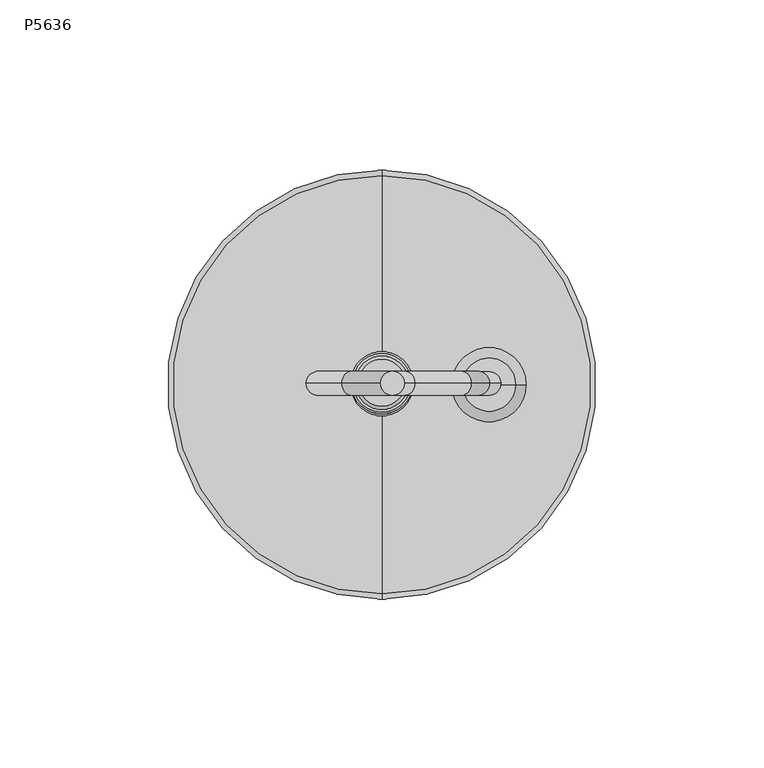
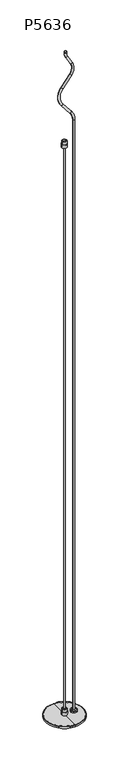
"""IFC4 building model written with IfcOpenShell, lengths in millimetres: light fixture geometry, Impact_Arch_Ltg-waf.r.3 : P5636."""

import ifcopenshell
import ifcopenshell.guid

model = None  # the IFC model being written
_history = None  # IfcOwnerHistory: only IFC2X3 demands one
_inside = {}  # id of a spatial element -> (the spatial element, [elements in it])
_under = {}  # id of a project, library or spatial element -> (it, [spatial elements below it])
_declared = {}  # id of a project -> (the project, [libraries it declares])
_typed = {}  # id of a type object -> (the type object, [elements of that type])
_made_of = {}  # id of a material, layer set ... -> (it, [elements and type objects made of it])


def new_model(schema):
    """Start an empty IFC model of exactly this schema.

    Asked for "IFC4X3", IfcOpenShell would pick the latest addendum, in which some entities
    have other attributes; the version numbers below select the first issue.
    IFC2X3 requires an IfcOwnerHistory on every rooted entity: one is made here for all.
    """
    global model, _history
    if schema == "IFC4X3":
        model = ifcopenshell.file(schema_version=(4, 3, 0, 0))
    else:
        model = ifcopenshell.file(schema=schema)
    _inside.clear()
    _under.clear()
    _declared.clear()
    _typed.clear()
    _made_of.clear()
    _history = None
    if model.schema == "IFC2X3":
        org = make("IfcOrganization", Name="unknown")
        user = make(
            "IfcPersonAndOrganization",
            ThePerson=make("IfcPerson", FamilyName="unknown"),
            TheOrganization=org,
        )
        app = make(
            "IfcApplication",
            ApplicationDeveloper=org,
            Version="unknown",
            ApplicationFullName="unknown",
            ApplicationIdentifier="unknown",
        )
        _history = make(
            "IfcOwnerHistory",
            OwningUser=user,
            OwningApplication=app,
            ChangeAction="ADDED",
            CreationDate=0,
        )
    return model


def make(cls, **values):
    """One entity of the class cls with the attributes given. An attribute that is None is left unset."""
    return model.create_entity(
        cls, **{name: value for name, value in values.items() if value is not None}
    )


def rooted(cls, **values):
    """An entity with a GlobalId (a new one), such as an element, a storey or a relation."""
    return make(cls, GlobalId=ifcopenshell.guid.new(), OwnerHistory=_history, **values)


def si_unit(unit_type, name, prefix=None):
    """IfcSIUnit, for example si_unit("LENGTHUNIT", "METRE", prefix="MILLI")."""
    return make("IfcSIUnit", UnitType=unit_type, Prefix=prefix, Name=name)


def assignment(units):
    """IfcUnitAssignment: the units of a project."""
    return None if units is None else make("IfcUnitAssignment", Units=units)


def point(xyz):
    """IfcCartesianPoint."""
    return None if xyz is None else make("IfcCartesianPoint", Coordinates=xyz)


def direction(xyz):
    """IfcDirection."""
    return None if xyz is None else make("IfcDirection", DirectionRatios=xyz)


def frame(location, z_axis=None, x_axis=None):
    """IfcAxis2Placement3D, a coordinate frame: its origin and axes. An axis left out is left unset."""
    return make(
        "IfcAxis2Placement3D",
        Location=point(location),
        Axis=direction(z_axis),
        RefDirection=direction(x_axis),
    )


def origin():
    """The frame at (0, 0, 0) with its axes left unset."""
    return frame((0.0, 0.0, 0.0))


def place(relative_to, where):
    """IfcLocalPlacement: puts the frame where relative to a parent placement (None: the world)."""
    return make(
        "IfcLocalPlacement", PlacementRelTo=relative_to, RelativePlacement=where
    )


def context(
    kind, dimensions, precision=None, world=None, true_north=None, identifier=None
):
    """IfcGeometricRepresentationContext, for example the 3D "Model" context."""
    return make(
        "IfcGeometricRepresentationContext",
        ContextIdentifier=identifier,
        ContextType=kind,
        CoordinateSpaceDimension=dimensions,
        Precision=precision,
        WorldCoordinateSystem=world,
        TrueNorth=true_north,
    )


def project(units=None, contexts=None):
    """IfcProject with its units and contexts."""
    return rooted(
        "IfcProject",
        Name="project",
        RepresentationContexts=contexts,
        UnitsInContext=assignment(units),
    )


def spatial(cls, under=None, at=None, **own):
    """A site, building, storey or space (cls), placed at a placement, below another one or the project."""
    s = rooted(cls, ObjectPlacement=at, **own)
    if under is not None:
        _under.setdefault(under.id(), (under, []))[1].append(s)
    return s


def circle_curve(where, radius):
    """IfcCircle in the frame where."""
    return make("IfcCircle", Position=where, Radius=radius)


def ellipse_curve(where, semi_axis1, semi_axis2):
    """IfcEllipse in the frame where."""
    return make(
        "IfcEllipse", Position=where, SemiAxis1=semi_axis1, SemiAxis2=semi_axis2
    )


def trimmed(basis, trim1, trim2, sense, master):
    """IfcTrimmedCurve: the piece of a basis curve between two trims."""
    return make(
        "IfcTrimmedCurve",
        BasisCurve=basis,
        Trim1=trim1,
        Trim2=trim2,
        SenseAgreement=sense,
        MasterRepresentation=master,
    )


def shape(context_of_items, identifier, shape_type, items):
    """IfcShapeRepresentation: the items that make up one representation, for example the "Body"."""
    return make(
        "IfcShapeRepresentation",
        ContextOfItems=context_of_items,
        RepresentationIdentifier=identifier,
        RepresentationType=shape_type,
        Items=items,
    )


def source(mapping_origin, context_of_items, identifier, shape_type, items):
    """IfcRepresentationMap: a shape defined once, which mapped items show again and again."""
    return make(
        "IfcRepresentationMap",
        MappingOrigin=mapping_origin,
        MappedRepresentation=shape(context_of_items, identifier, shape_type, items),
    )


def transform(
    local_origin,
    x_axis=None,
    y_axis=None,
    z_axis=None,
    scale=None,
    scale2=None,
    scale3=None,
    uniform=True,
):
    """IfcCartesianTransformationOperator3D, or its non-uniform kind. x_axis, y_axis, z_axis: its Axis1, 2, 3."""
    if uniform:
        return make(
            "IfcCartesianTransformationOperator3D",
            Axis1=direction(x_axis),
            Axis2=direction(y_axis),
            LocalOrigin=point(local_origin),
            Scale=scale,
            Axis3=direction(z_axis),
        )
    return make(
        "IfcCartesianTransformationOperator3DnonUniform",
        Axis1=direction(x_axis),
        Axis2=direction(y_axis),
        LocalOrigin=point(local_origin),
        Scale=scale,
        Axis3=direction(z_axis),
        Scale2=scale2,
        Scale3=scale3,
    )


def mapped(mapping_source, mapping_target):
    """IfcMappedItem: shows the shape of a source again, moved by a transform."""
    return make(
        "IfcMappedItem", MappingSource=mapping_source, MappingTarget=mapping_target
    )


def made_of(thing, what):
    """Note that an element or type object is made of a material, layer set ...; save() writes the relation."""
    if what is not None:
        _made_of.setdefault(what.id(), (what, []))[1].append(thing)
    return thing


def element(
    cls,
    number,
    at=None,
    inside=None,
    cuts=None,
    type_object=None,
    material=None,
    context=None,
    identifier="Body",
    shape_type=None,
    held_by="IfcProductDefinitionShape",
    body=None,
    shapes=None,
    **own,
):
    """One element of the class cls, such as IfcWall. Its Tag is "e" and its number.

    at: its placement. inside: the storey or other place that contains it. cuts: it is an
    opening in that element (IfcRelVoidsElement). A single representation is given by context,
    identifier, shape_type and body (its items); several are given by shapes. held_by: the class
    of the entity that holds the representations. save() writes the other relations.
    """
    e = rooted(cls, Tag="e%d" % number, ObjectPlacement=at, **own)
    if body is not None:
        shapes = [shape(context, identifier, shape_type, body)]
    if shapes is not None:
        e.Representation = make(held_by, Representations=shapes)
    if inside is not None:
        _inside.setdefault(inside.id(), (inside, []))[1].append(e)
    if cuts is not None:
        rooted(
            "IfcRelVoidsElement", RelatingBuildingElement=cuts, RelatedOpeningElement=e
        )
    if type_object is not None:
        _typed.setdefault(type_object.id(), (type_object, []))[1].append(e)
    return made_of(e, material)


def aggregate(whole, parts):
    """IfcRelAggregates: a whole, such as a stair, and the parts it consists of."""
    return rooted("IfcRelAggregates", RelatingObject=whole, RelatedObjects=parts)


def save(model, path):
    """Write the relations noted so far, then the file.

    IfcRelAggregates (storeys below a building ...), IfcRelContainedInSpatialStructure (elements
    in a storey), IfcRelDefinesByType, IfcRelAssociatesMaterial and IfcRelDeclares: one each for
    every whole, place, type object, material and project.
    """
    for whole, parts in _under.values():
        aggregate(whole, parts)
    for where, things in _inside.values():
        rooted(
            "IfcRelContainedInSpatialStructure",
            RelatedElements=things,
            RelatingStructure=where,
        )
    for kind, things in _typed.values():
        rooted("IfcRelDefinesByType", RelatedObjects=things, RelatingType=kind)
    for what, things in _made_of.values():
        rooted("IfcRelAssociatesMaterial", RelatedObjects=things, RelatingMaterial=what)
    for by, libraries in _declared.values():
        rooted("IfcRelDeclares", RelatingContext=by, RelatedDefinitions=libraries)
    model.write(path)


def plane_surface(at):
    """IfcPlane: the flat surface through the origin of the frame at, square to its z axis."""
    return make("IfcPlane", Position=at)


def cylinder_surface(at, radius):
    """IfcCylindricalSurface: all points at the distance radius from the z axis of the frame at."""
    return make("IfcCylindricalSurface", Position=at, Radius=radius)


def revolved_surface(curve, axis_point, axis_direction):
    """IfcSurfaceOfRevolution: the curve turned about the line through axis_point along axis_direction."""
    return make(
        "IfcSurfaceOfRevolution",
        SweptCurve=make("IfcArbitraryOpenProfileDef", ProfileType="CURVE", Curve=curve),
        AxisPosition=make("IfcAxis1Placement", Location=point(axis_point), Axis=direction(axis_direction)),
    )


def advanced_brep(points, edges, surfaces, faces):
    """IfcAdvancedBrep: a solid bounded by faces that lie on surfaces and meet in shared edges.

    An edge is (start, end): straight between two places in points (the first is 0);
    or (start, end, curve); or (start, end, curve, False) where it runs against its curve.
    A face is (place in surfaces, loops), or (place, loops, False) where it looks against
    its surface's normal. A loop lists edges by number (the first is 1), with a minus sign
    where the edge is run from its end to its start. The first loop is the outer one.
    """
    corners = [point(p) for p in points]
    vertices = [make("IfcVertexPoint", VertexGeometry=c) for c in corners]
    made = []
    for start, end, *more in edges:
        made.append(
            make(
                "IfcEdgeCurve",
                EdgeStart=vertices[start],
                EdgeEnd=vertices[end],
                EdgeGeometry=more[0] if more else make("IfcPolyline", Points=[corners[start], corners[end]]),
                SameSense=more[1] if len(more) > 1 else True,
            )
        )
    hull = []
    for where, loops, *sense in faces:
        bounds = []
        for j, loop in enumerate(loops):
            ring = [make("IfcOrientedEdge", EdgeElement=made[abs(k) - 1], Orientation=k > 0) for k in loop]
            bounds.append(
                make(
                    "IfcFaceOuterBound" if j == 0 else "IfcFaceBound",
                    Bound=make("IfcEdgeLoop", EdgeList=ring),
                    Orientation=True,
                )
            )
        hull.append(make("IfcAdvancedFace", Bounds=bounds, FaceSurface=surfaces[where], SameSense=sense[0] if sense else True))
    return make("IfcAdvancedBrep", Outer=make("IfcClosedShell", CfsFaces=hull))


def p5636_472eec4d(model_context):
    return source(origin(), model_context, "Body", "AdvancedBrep", [
        advanced_brep(
        [(-9.2456, 0.2280822, 2039.366), (9.2456, 0.2280822, 2039.366), (0.0, 0.2280822, 2039.366), (-9.2456, 0.2280822, 2049.849117), (9.2456, 0.2280822, 2049.849117), (-8.730517, 0.2280822, 2050.3642), (8.730517, 0.2280822, 2050.3642), (-7.9030748, 0.2280822, 2050.3642), (7.9030748, 0.2280822, 2050.3642), (-7.9030748, 0.2280822, 2059.4924806), (7.9030748, 0.2280822, 2059.4924806), (-6.9575823, 0.2280822, 2060.4379732), (6.9575823, 0.2280822, 2060.4379732), (0.0, 0.2280822, 2060.4379732)],
        [
            (0, 1, circle_curve(frame((0.0, 0.2280822, 2039.366), z_axis=(0.0, 0.0, -1.0), x_axis=(1.0, 0.0, 0.0)), 9.2456)),
            (1, 2),
            (2, 0),
            (1, 0, circle_curve(frame((0.0, 0.2280822, 2039.366), z_axis=(0.0, 0.0, -1.0), x_axis=(1.0, 0.0, 0.0)), 9.2456)),
            (3, 4, circle_curve(frame((0.0, 0.2280822, 2049.849117), z_axis=(0.0, 0.0, -1.0), x_axis=(1.0, 0.0, 0.0)), 9.2456)),
            (4, 1),
            (0, 3),
            (4, 3, circle_curve(frame((0.0, 0.2280822, 2049.849117), z_axis=(0.0, 0.0, -1.0), x_axis=(1.0, 0.0, 0.0)), 9.2456)),
            (5, 6, circle_curve(frame((0.0, 0.2280822, 2050.3642), z_axis=(0.0, 0.0, -1.0), x_axis=(1.0, 0.0, 0.0)), 8.730517)),
            (6, 4, circle_curve(frame((8.730517, 0.2280822, 2049.849117), z_axis=(0.0, 1.0, 0.0), x_axis=(1.0, 0.0, 0.0)), 0.515083)),
            (3, 5, circle_curve(frame((-8.730517, 0.2280822, 2049.849117), z_axis=(0.0, 1.0, 0.0), x_axis=(-1.0, 0.0, 0.0)), 0.515083)),
            (6, 5, circle_curve(frame((0.0, 0.2280822, 2050.3642), z_axis=(0.0, 0.0, -1.0), x_axis=(1.0, 0.0, 0.0)), 8.730517)),
            (7, 8, circle_curve(frame((0.0, 0.2280822, 2050.3642), z_axis=(0.0, 0.0, -1.0), x_axis=(1.0, 0.0, 0.0)), 7.9030748)),
            (8, 6),
            (5, 7),
            (8, 7, circle_curve(frame((0.0, 0.2280822, 2050.3642), z_axis=(0.0, 0.0, -1.0), x_axis=(1.0, 0.0, 0.0)), 7.9030748)),
            (9, 10, circle_curve(frame((0.0, 0.2280822, 2059.4924806), z_axis=(0.0, 0.0, -1.0), x_axis=(1.0, 0.0, 0.0)), 7.9030748)),
            (10, 8),
            (7, 9),
            (10, 9, circle_curve(frame((0.0, 0.2280822, 2059.4924806), z_axis=(0.0, 0.0, -1.0), x_axis=(1.0, 0.0, 0.0)), 7.9030748)),
            (11, 12, circle_curve(frame((0.0, 0.2280822, 2060.4379732), z_axis=(0.0, 0.0, -1.0), x_axis=(1.0, 0.0, 0.0)), 6.9575823)),
            (12, 10, circle_curve(frame((6.9575823, 0.2280822, 2059.4924806), z_axis=(0.0, 1.0, 0.0), x_axis=(1.0, 0.0, 0.0)), 0.9454926)),
            (9, 11, circle_curve(frame((-6.9575823, 0.2280822, 2059.4924806), z_axis=(0.0, 1.0, 0.0), x_axis=(-1.0, 0.0, 0.0)), 0.9454926)),
            (12, 11, circle_curve(frame((0.0, 0.2280822, 2060.4379732), z_axis=(0.0, 0.0, -1.0), x_axis=(1.0, 0.0, 0.0)), 6.9575823)),
            (13, 12),
            (11, 13),
        ],
        [
            plane_surface(frame((0.0, 0.2280822, 2039.366), z_axis=(0.0, 0.0, -1.0), x_axis=(1.0, 0.0, 0.0))),
            cylinder_surface(frame((0.0, 0.2280822, 2012.95), z_axis=(0.0, 0.0, 1.0), x_axis=(1.0, 0.0, 0.0)), 9.2456),
            revolved_surface(trimmed(ellipse_curve(frame((8.730517, 0.2280822, 2049.849117), z_axis=(0.0, -1.0, 0.0), x_axis=(1.0, 0.0, 0.0)), 0.515083, 0.515083), [point((9.2456, 0.2280822, 2049.849117))], [point((8.730517, 0.2280822, 2050.3642))], True, "CARTESIAN"), (0.0, 0.2280822, 2012.95), (0.0, 0.0, 1.0)),
            plane_surface(frame((0.0, 0.2280822, 2050.3642), z_axis=(0.0, 0.0, 1.0), x_axis=(1.0, 0.0, 0.0))),
            cylinder_surface(frame((0.0, 0.2280822, 2012.95), z_axis=(0.0, 0.0, 1.0), x_axis=(1.0, 0.0, 0.0)), 7.9030748),
            revolved_surface(trimmed(ellipse_curve(frame((6.9575823, 0.2280822, 2059.4924806), z_axis=(0.0, -1.0, 0.0), x_axis=(1.0, 0.0, 0.0)), 0.9454926, 0.9454926), [point((7.9030748, 0.2280822, 2059.4924806))], [point((6.9575823, 0.2280822, 2060.4379732))], True, "CARTESIAN"), (0.0, 0.2280822, 2012.95), (0.0, 0.0, 1.0)),
            plane_surface(frame((0.0, 0.2280822, 2060.4379732), z_axis=(0.0, 0.0, 1.0), x_axis=(1.0, 0.0, 0.0))),
        ],
        [
            (0, [[1, 2, 3]]),
            (0, [[4, -3, -2]]),
            (1, [[5, 6, -1, 7]]),
            (1, [[8, -7, -4, -6]]),
            (2, [[9, 10, -5, 11]]),
            (2, [[12, -11, -8, -10]]),
            (3, [[13, 14, -9, 15]]),
            (3, [[16, -15, -12, -14]]),
            (4, [[17, 18, -13, 19]]),
            (4, [[20, -19, -16, -18]]),
            (5, [[21, 22, -17, 23]]),
            (5, [[24, -23, -20, -22]]),
            (6, [[25, -21, 26]]),
            (6, [[-26, -24, -25]]),
        ],
    ),
        advanced_brep(
        [(-1.9501425, 0.0, 2039.366), (1.9501425, 0.0, 2039.366), (1.9501425, 0.0, 7.1427536), (-1.9501425, 0.0, 7.1427536), (0.0, 0.0, 2039.366), (0.0, 0.0, 7.1427536)],
        [
            (0, 1, circle_curve(frame((0.0, 0.0, 2039.366), z_axis=(0.0, 0.0, -1.0), x_axis=(1.0, 0.0, 0.0)), 1.9501425)),
            (1, 2),
            (2, 3, circle_curve(frame((0.0, 0.0, 7.1427536), z_axis=(0.0, 0.0, 1.0), x_axis=(1.0, 0.0, 0.0)), 1.9501425)),
            (3, 0),
            (1, 0, circle_curve(frame((0.0, 0.0, 2039.366), z_axis=(0.0, 0.0, -1.0), x_axis=(1.0, 0.0, 0.0)), 1.9501425)),
            (3, 2, circle_curve(frame((0.0, 0.0, 7.1427536), z_axis=(0.0, 0.0, 1.0), x_axis=(1.0, 0.0, 0.0)), 1.9501425)),
            (4, 1),
            (0, 4),
            (2, 5),
            (5, 3),
        ],
        [
            cylinder_surface(frame((0.0, 0.0, 33.2769446), z_axis=(0.0, 0.0, 1.0), x_axis=(1.0, 0.0, 0.0)), 1.9501425),
            plane_surface(frame((0.0, 0.0, 2039.366), z_axis=(0.0, 0.0, 1.0), x_axis=(1.0, 0.0, 0.0))),
            plane_surface(frame((0.0, 0.0, 7.1427536), z_axis=(0.0, 0.0, -1.0), x_axis=(1.0, 0.0, 0.0))),
        ],
        [
            (0, [[1, 2, 3, 4]]),
            (0, [[5, -4, 6, -2]]),
            (1, [[7, -1, 8]]),
            (1, [[-8, -5, -7]]),
            (2, [[-3, 9, 10]]),
            (2, [[-6, -10, -9]]),
        ],
    ),
        advanced_brep(
        [(-9.2456, 0.0, 7.366), (9.2456, 0.0, 7.366), (0.0, 0.0, 7.366), (-9.2456, 0.0, 17.849117), (9.2456, 0.0, 17.849117), (-8.730517, 0.0, 18.3642), (8.730517, 0.0, 18.3642), (-7.9030748, 0.0, 18.3642), (7.9030748, 0.0, 18.3642), (-7.9030748, 0.0, 27.4924806), (7.9030748, 0.0, 27.4924806), (-6.9575823, 0.0, 28.4379732), (6.9575823, 0.0, 28.4379732), (0.0, 0.0, 28.4379732)],
        [
            (0, 1, circle_curve(frame((0.0, 0.0, 7.366), z_axis=(0.0, 0.0, -1.0), x_axis=(1.0, 0.0, 0.0)), 9.2456)),
            (1, 2),
            (2, 0),
            (1, 0, circle_curve(frame((0.0, 0.0, 7.366), z_axis=(0.0, 0.0, -1.0), x_axis=(1.0, 0.0, 0.0)), 9.2456)),
            (3, 4, circle_curve(frame((0.0, 0.0, 17.849117), z_axis=(0.0, 0.0, -1.0), x_axis=(1.0, 0.0, 0.0)), 9.2456)),
            (4, 1),
            (0, 3),
            (4, 3, circle_curve(frame((0.0, 0.0, 17.849117), z_axis=(0.0, 0.0, -1.0), x_axis=(1.0, 0.0, 0.0)), 9.2456)),
            (5, 6, circle_curve(frame((0.0, 0.0, 18.3642), z_axis=(0.0, 0.0, -1.0), x_axis=(1.0, 0.0, 0.0)), 8.730517)),
            (6, 4, circle_curve(frame((8.730517, 0.0, 17.849117), z_axis=(0.0, 1.0, 0.0), x_axis=(1.0, 0.0, 0.0)), 0.515083)),
            (3, 5, circle_curve(frame((-8.730517, 0.0, 17.849117), z_axis=(0.0, 1.0, 0.0), x_axis=(-1.0, 0.0, 0.0)), 0.515083)),
            (6, 5, circle_curve(frame((0.0, 0.0, 18.3642), z_axis=(0.0, 0.0, -1.0), x_axis=(1.0, 0.0, 0.0)), 8.730517)),
            (7, 8, circle_curve(frame((0.0, 0.0, 18.3642), z_axis=(0.0, 0.0, -1.0), x_axis=(1.0, 0.0, 0.0)), 7.9030748)),
            (8, 6),
            (5, 7),
            (8, 7, circle_curve(frame((0.0, 0.0, 18.3642), z_axis=(0.0, 0.0, -1.0), x_axis=(1.0, 0.0, 0.0)), 7.9030748)),
            (9, 10, circle_curve(frame((0.0, 0.0, 27.4924806), z_axis=(0.0, 0.0, -1.0), x_axis=(1.0, 0.0, 0.0)), 7.9030748)),
            (10, 8),
            (7, 9),
            (10, 9, circle_curve(frame((0.0, 0.0, 27.4924806), z_axis=(0.0, 0.0, -1.0), x_axis=(1.0, 0.0, 0.0)), 7.9030748)),
            (11, 12, circle_curve(frame((0.0, 0.0, 28.4379732), z_axis=(0.0, 0.0, -1.0), x_axis=(1.0, 0.0, 0.0)), 6.9575823)),
            (12, 10, circle_curve(frame((6.9575823, 0.0, 27.4924806), z_axis=(0.0, 1.0, 0.0), x_axis=(1.0, 0.0, 0.0)), 0.9454926)),
            (9, 11, circle_curve(frame((-6.9575823, 0.0, 27.4924806), z_axis=(0.0, 1.0, 0.0), x_axis=(-1.0, 0.0, 0.0)), 0.9454926)),
            (12, 11, circle_curve(frame((0.0, 0.0, 28.4379732), z_axis=(0.0, 0.0, -1.0), x_axis=(1.0, 0.0, 0.0)), 6.9575823)),
            (13, 12),
            (11, 13),
        ],
        [
            plane_surface(frame((0.0, 0.0, 7.366), z_axis=(0.0, 0.0, -1.0), x_axis=(1.0, 0.0, 0.0))),
            cylinder_surface(frame((0.0, 0.0, -19.05), z_axis=(0.0, 0.0, 1.0), x_axis=(1.0, 0.0, 0.0)), 9.2456),
            revolved_surface(trimmed(ellipse_curve(frame((8.730517, 0.0, 17.849117), z_axis=(0.0, -1.0, 0.0), x_axis=(1.0, 0.0, 0.0)), 0.515083, 0.515083), [point((9.2456, 0.0, 17.849117))], [point((8.730517, 0.0, 18.3642))], True, "CARTESIAN"), (0.0, 0.0, -19.05), (0.0, 0.0, 1.0)),
            plane_surface(frame((0.0, 0.0, 18.3642), z_axis=(0.0, 0.0, 1.0), x_axis=(1.0, 0.0, 0.0))),
            cylinder_surface(frame((0.0, 0.0, -19.05), z_axis=(0.0, 0.0, 1.0), x_axis=(1.0, 0.0, 0.0)), 7.9030748),
            revolved_surface(trimmed(ellipse_curve(frame((6.9575823, 0.0, 27.4924806), z_axis=(0.0, -1.0, 0.0), x_axis=(1.0, 0.0, 0.0)), 0.9454926, 0.9454926), [point((7.9030748, 0.0, 27.4924806))], [point((6.9575823, 0.0, 28.4379732))], True, "CARTESIAN"), (0.0, 0.0, -19.05), (0.0, 0.0, 1.0)),
            plane_surface(frame((0.0, 0.0, 28.4379732), z_axis=(0.0, 0.0, 1.0), x_axis=(1.0, 0.0, 0.0))),
        ],
        [
            (0, [[1, 2, 3]]),
            (0, [[4, -3, -2]]),
            (1, [[5, 6, -1, 7]]),
            (1, [[8, -7, -4, -6]]),
            (2, [[9, 10, -5, 11]]),
            (2, [[12, -11, -8, -10]]),
            (3, [[13, 14, -9, 15]]),
            (3, [[16, -15, -12, -14]]),
            (4, [[17, 18, -13, 19]]),
            (4, [[20, -19, -16, -18]]),
            (5, [[21, 22, -17, 23]]),
            (5, [[24, -23, -20, -22]]),
            (6, [[25, -21, 26]]),
            (6, [[-26, -24, -25]]),
        ],
    ),
        advanced_brep(
        [(0.0, 63.5264903, 0.0), (0.0, -63.5264903, 0.0), (0.0, -63.5264903, 5.7785), (0.0, 63.5264903, 5.7785), (0.0, 0.0, 0.0), (0.0, 61.9389903, 7.366), (0.0, -61.9389903, 7.366), (0.0, 0.0, 7.366)],
        [
            (0, 1, circle_curve(frame((0.0, 0.0, 0.0), z_axis=(0.0, 0.0, 1.0), x_axis=(0.0, -1.0, 0.0)), 63.5264903)),
            (1, 2),
            (2, 3, circle_curve(frame((0.0, 0.0, 5.7785), z_axis=(0.0, 0.0, -1.0), x_axis=(0.0, -1.0, 0.0)), 63.5264903)),
            (3, 0),
            (1, 0, circle_curve(frame((0.0, 0.0, 0.0), z_axis=(0.0, 0.0, 1.0), x_axis=(0.0, -1.0, 0.0)), 63.5264903)),
            (3, 2, circle_curve(frame((0.0, 0.0, 5.7785), z_axis=(0.0, 0.0, -1.0), x_axis=(0.0, -1.0, 0.0)), 63.5264903)),
            (4, 1),
            (0, 4),
            (5, 6, circle_curve(frame((0.0, 0.0, 7.366), z_axis=(0.0, 0.0, 1.0), x_axis=(0.0, -1.0, 0.0)), 61.9389903)),
            (6, 7),
            (7, 5),
            (6, 5, circle_curve(frame((0.0, 0.0, 7.366), z_axis=(0.0, 0.0, 1.0), x_axis=(0.0, -1.0, 0.0)), 61.9389903)),
            (2, 6, circle_curve(frame((0.0, -61.9389903, 5.7785), z_axis=(-1.0, 0.0, 0.0), x_axis=(0.0, 1.0, 0.0)), 1.5875)),
            (5, 3, circle_curve(frame((0.0, 61.9389903, 5.7785), z_axis=(-1.0, 0.0, 0.0), x_axis=(0.0, -1.0, 0.0)), 1.5875)),
        ],
        [
            cylinder_surface(frame((0.0, 0.0, -9.7717916), z_axis=(0.0, 0.0, -1.0), x_axis=(0.0, -1.0, 0.0)), 63.5264903),
            plane_surface(frame((0.0, 0.0, 0.0), z_axis=(0.0, 0.0, -1.0), x_axis=(0.0, -1.0, 0.0))),
            plane_surface(frame((0.0, 0.0, 7.366), z_axis=(0.0, 0.0, 1.0), x_axis=(0.0, -1.0, 0.0))),
            revolved_surface(trimmed(ellipse_curve(frame((0.0, -61.9389903, 5.7785), z_axis=(1.0, 0.0, 0.0), x_axis=(0.0, 1.0, 0.0)), 1.5875, 1.5875), [point((0.0, -61.9389903, 7.366))], [point((0.0, -63.5264903, 5.7785))], True, "CARTESIAN"), (0.0, 0.0, -9.7717916), (0.0, 0.0, -1.0)),
        ],
        [
            (0, [[1, 2, 3, 4]]),
            (0, [[5, -4, 6, -2]]),
            (1, [[7, -1, 8]]),
            (1, [[-8, -5, -7]]),
            (2, [[9, 10, 11]]),
            (2, [[12, -11, -10]]),
            (3, [[-3, 13, -9, 14]]),
            (3, [[-6, -14, -12, -13]]),
        ],
    ),
        advanced_brep(
        [(31.75, 0.0, 14.351), (39.6031027, 0.0, 14.351), (23.8968973, 0.0, 14.351), (20.7570545, 0.0, 7.366), (42.7429455, 0.0, 7.366), (31.75, 0.0, 7.366), (20.7570545, 0.0, 11.2111572), (42.7429455, 0.0, 11.2111572)],
        [
            (0, 1),
            (1, 2, circle_curve(frame((31.75, 0.0, 14.351), z_axis=(0.0, 0.0, 1.0), x_axis=(1.0, 0.0, 0.0)), 7.8531027)),
            (2, 0),
            (2, 1, circle_curve(frame((31.75, 0.0, 14.351), z_axis=(0.0, 0.0, 1.0), x_axis=(1.0, 0.0, 0.0)), 7.8531027)),
            (3, 4, circle_curve(frame((31.75, 0.0, 7.366), z_axis=(0.0, 0.0, -1.0), x_axis=(1.0, 0.0, 0.0)), 10.9929455)),
            (4, 5),
            (5, 3),
            (4, 3, circle_curve(frame((31.75, 0.0, 7.366), z_axis=(0.0, 0.0, -1.0), x_axis=(1.0, 0.0, 0.0)), 10.9929455)),
            (6, 7, circle_curve(frame((31.75, 0.0, 11.2111572), z_axis=(0.0, 0.0, -1.0), x_axis=(1.0, 0.0, 0.0)), 10.9929455)),
            (7, 4),
            (3, 6),
            (7, 6, circle_curve(frame((31.75, 0.0, 11.2111572), z_axis=(0.0, 0.0, -1.0), x_axis=(1.0, 0.0, 0.0)), 10.9929455)),
            (1, 7, circle_curve(frame((39.6031027, 0.0, 11.2111572), z_axis=(0.0, 1.0, 0.0), x_axis=(1.0, 0.0, 0.0)), 3.1398428)),
            (6, 2, circle_curve(frame((23.8968973, 0.0, 11.2111572), z_axis=(0.0, 1.0, 0.0), x_axis=(-1.0, 0.0, 0.0)), 3.1398428)),
        ],
        [
            plane_surface(frame((31.75, 0.0, 14.351), z_axis=(0.0, 0.0, 1.0), x_axis=(1.0, 0.0, 0.0))),
            plane_surface(frame((31.75, 0.0, 7.366), z_axis=(0.0, 0.0, -1.0), x_axis=(1.0, 0.0, 0.0))),
            cylinder_surface(frame((31.75, 0.0, 20.1361367), z_axis=(0.0, 0.0, 1.0), x_axis=(1.0, 0.0, 0.0)), 10.9929455),
            revolved_surface(trimmed(ellipse_curve(frame((39.6031027, 0.0, 11.2111572), z_axis=(0.0, -1.0, 0.0), x_axis=(1.0, 0.0, 0.0)), 3.1398428, 3.1398428), [point((42.7429455, 0.0, 11.2111572))], [point((39.6031027, 0.0, 14.351))], True, "CARTESIAN"), (31.75, 0.0, 20.1361367), (0.0, 0.0, 1.0)),
        ],
        [
            (0, [[1, 2, 3]]),
            (0, [[-3, 4, -1]]),
            (1, [[5, 6, 7]]),
            (1, [[8, -7, -6]]),
            (2, [[9, 10, -5, 11]]),
            (2, [[12, -11, -8, -10]]),
            (3, [[-2, 13, -9, 14]]),
            (3, [[-4, -14, -12, -13]]),
        ],
    ),
        advanced_brep(
        [(35.2628496, 0.0, 14.3508541), (28.1759769, 0.0, 14.3508541), (35.2628496, 0.0, 2125.5752863), (28.1759769, 0.0, 2125.5752863), (18.43433, 0.0, 2153.0848487), (23.9418645, 0.0, 2157.5447622), (-5.6345189, 0.0, 2194.0685539), (-11.1420534, 0.0, 2189.6086404), (-11.9661144, 0.0, 2253.4301178), (-6.3452627, 0.0, 2249.1138937), (23.7390917, 0.0, 2288.2915849), (18.1182399, 0.0, 2292.607809), (20.4729401, 0.0, 2329.1006159), (26.6018809, 0.0, 2332.6586841), (9.9112613, 0.0, 2361.4090662), (3.7823205, 0.0, 2357.8509981), (-0.4093526, 0.0, 2373.4202249), (6.6775201, 0.0, 2373.4202249), (6.6775201, 0.0, 2378.6951686), (-0.4093526, 0.0, 2378.6951686)],
        [
            (0, 1, circle_curve(frame((31.7194133, 0.0, 14.3508541), z_axis=(0.0, 0.0, -1.0), x_axis=(-1.0, 0.0, 0.0)), 3.5434363)),
            (1, 0, circle_curve(frame((31.7194133, 0.0, 14.3508541), z_axis=(0.0, 0.0, -1.0), x_axis=(-1.0, 0.0, 0.0)), 3.5434363)),
            (0, 2),
            (2, 3, circle_curve(frame((31.7194133, 0.0, 2125.5752863), z_axis=(0.0, 0.0, -1.0), x_axis=(-1.0, 0.0, 0.0)), 3.5434363)),
            (3, 1),
            (3, 2, circle_curve(frame((31.7194133, 0.0, 2125.5752863), z_axis=(0.0, 0.0, -1.0), x_axis=(-1.0, 0.0, 0.0)), 3.5434363)),
            (4, 3, circle_curve(frame((-15.5371504, 0.0, 2125.5752863), z_axis=(0.0, 1.0, 0.0), x_axis=(1.0, 0.0, 0.0)), 43.7131273)),
            (2, 5, circle_curve(frame((-15.5371504, 0.0, 2125.5752863), z_axis=(0.0, -1.0, 0.0), x_axis=(1.0, 0.0, 0.0)), 50.8)),
            (5, 4, circle_curve(frame((21.1880972, 0.0, 2155.3148054), z_axis=(0.629320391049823, 0.0, -0.7771459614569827), x_axis=(-0.7771459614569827, 0.0, -0.629320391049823)), 3.5434363)),
            (4, 5, circle_curve(frame((21.1880972, 0.0, 2155.3148054), z_axis=(0.6293203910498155, 0.0, -0.7771459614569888), x_axis=(-0.7771459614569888, 0.0, -0.6293203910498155)), 3.5434363)),
            (5, 6),
            (6, 7, circle_curve(frame((-8.3882861, 0.0, 2191.8385971), z_axis=(0.6293203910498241, 0.0, -0.7771459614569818), x_axis=(-0.7771459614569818, 0.0, -0.6293203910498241)), 3.5434363)),
            (7, 4),
            (7, 6, circle_curve(frame((-8.3882861, 0.0, 2191.8385971), z_axis=(0.6293203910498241, 0.0, -0.7771459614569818), x_axis=(-0.7771459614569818, 0.0, -0.6293203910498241)), 3.5434363)),
            (8, 7, circle_curve(frame((28.9096191, 0.0, 2222.0418453), z_axis=(0.0, -1.0, 0.0), x_axis=(-0.7771459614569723, 0.0, -0.6293203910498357)), 51.5368727)),
            (6, 9, circle_curve(frame((28.9096191, 0.0, 2222.0418453), z_axis=(0.0, 1.0, 0.0), x_axis=(-0.7771459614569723, 0.0, -0.6293203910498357)), 44.45)),
            (9, 8, circle_curve(frame((-9.1556885, 0.0, 2251.2720058), z_axis=(-0.6090449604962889, 0.0, -0.7931356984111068), x_axis=(-0.7931356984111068, 0.0, 0.6090449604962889)), 3.5434363)),
            (8, 9, circle_curve(frame((-9.1556885, 0.0, 2251.2720058), z_axis=(-0.6090449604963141, 0.0, -0.7931356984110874), x_axis=(-0.7931356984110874, 0.0, 0.6090449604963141)), 3.5434363)),
            (9, 10),
            (10, 11, circle_curve(frame((20.9286658, 0.0, 2290.449697), z_axis=(-0.6090449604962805, 0.0, -0.7931356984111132), x_axis=(-0.7931356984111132, 0.0, 0.6090449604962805)), 3.5434363)),
            (11, 8),
            (11, 10, circle_curve(frame((20.9286658, 0.0, 2290.449697), z_axis=(-0.6090449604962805, 0.0, -0.7931356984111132), x_axis=(-0.7931356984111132, 0.0, 0.6090449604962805)), 3.5434363)),
            (12, 11, circle_curve(frame((-7.9311686, 0.0, 2312.6110204), z_axis=(0.0, 1.0, 0.0), x_axis=(0.7931356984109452, 0.0, -0.6090449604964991)), 32.8435709)),
            (10, 13, circle_curve(frame((-7.9311686, 0.0, 2312.6110204), z_axis=(0.0, -1.0, 0.0), x_axis=(0.7931356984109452, 0.0, -0.6090449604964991)), 39.9304436)),
            (13, 12, circle_curve(frame((23.5374105, 0.0, 2330.87965), z_axis=(0.5020646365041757, 0.0, -0.8648300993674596), x_axis=(-0.8648300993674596, 0.0, -0.5020646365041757)), 3.5434363)),
            (12, 13, circle_curve(frame((23.5374105, 0.0, 2330.87965), z_axis=(0.5020646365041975, 0.0, -0.8648300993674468), x_axis=(-0.8648300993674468, 0.0, -0.5020646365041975)), 3.5434363)),
            (13, 14),
            (14, 15, circle_curve(frame((6.8467909, 0.0, 2359.6300322), z_axis=(0.5020646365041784, 0.0, -0.8648300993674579), x_axis=(-0.8648300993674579, 0.0, -0.5020646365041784)), 3.5434363)),
            (15, 12),
            (15, 14, circle_curve(frame((6.8467909, 0.0, 2359.6300322), z_axis=(0.5020646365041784, 0.0, -0.8648300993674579), x_axis=(-0.8648300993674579, 0.0, -0.5020646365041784)), 3.5434363)),
            (16, 15, circle_curve(frame((30.6010507, 0.0, 2373.4202249), z_axis=(0.0, -1.0, 0.0), x_axis=(-0.8648300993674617, 0.0, -0.502064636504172)), 31.0104033)),
            (14, 17, circle_curve(frame((30.6010507, 0.0, 2373.4202249), z_axis=(0.0, 1.0, 0.0), x_axis=(-0.8648300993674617, 0.0, -0.502064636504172)), 23.9235306)),
            (17, 16, circle_curve(frame((3.1340837, 0.0, 2373.4202249), z_axis=(0.0, 0.0, -1.0), x_axis=(-1.0, 0.0, 0.0)), 3.5434363)),
            (16, 17, circle_curve(frame((3.1340837, 0.0, 2373.4202249), z_axis=(0.0, 0.0, -1.0), x_axis=(-1.0, 0.0, 0.0)), 3.5434363)),
            (18, 19, circle_curve(frame((3.1340837, 0.0, 2378.6951686), z_axis=(0.0, 0.0, 1.0), x_axis=(-1.0, 0.0, 0.0)), 3.5434363)),
            (19, 18, circle_curve(frame((3.1340837, 0.0, 2378.6951686), z_axis=(0.0, 0.0, 1.0), x_axis=(-1.0, 0.0, 0.0)), 3.5434363)),
            (17, 18),
            (19, 16),
        ],
        [
            plane_surface(frame((35.2628496, 0.0, 14.3508541), z_axis=(0.0, 0.0, -1.0), x_axis=(0.0, -1.0, 0.0))),
            cylinder_surface(frame((31.7194133, 0.0, 14.3508541), z_axis=(0.0, 0.0, -1.0), x_axis=(-1.0, 0.0, 0.0)), 3.5434363),
            revolved_surface(trimmed(ellipse_curve(frame((31.7194133, 0.0, 2125.5752863), z_axis=(0.0, 0.0, -1.0), x_axis=(-1.0, 0.0, 0.0)), 3.5434363, 3.5434363), [point((35.2628496, 0.0, 2125.5752863))], [point((28.1759769, 0.0, 2125.5752863))], True, "CARTESIAN"), (-15.5371504, 0.0, 2125.5752863), (0.0, -1.0, 0.0)),
            revolved_surface(trimmed(ellipse_curve(frame((31.7194133, 0.0, 2125.5752863), z_axis=(0.0, 0.0, -1.0), x_axis=(-1.0, 0.0, 0.0)), 3.5434363, 3.5434363), [point((28.1759769, 0.0, 2125.5752863))], [point((35.2628496, 0.0, 2125.5752863))], True, "CARTESIAN"), (-15.5371504, 0.0, 2125.5752863), (0.0, -1.0, 0.0)),
            cylinder_surface(frame((21.1880972, 0.0, 2155.3148054), z_axis=(0.6293203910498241, 0.0, -0.7771459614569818), x_axis=(-0.7771459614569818, 0.0, -0.6293203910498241)), 3.5434363),
            revolved_surface(trimmed(ellipse_curve(frame((-8.3882861, 0.0, 2191.8385971), z_axis=(0.6293203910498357, 0.0, -0.7771459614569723), x_axis=(-0.7771459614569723, 0.0, -0.6293203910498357)), 3.5434363, 3.5434363), [point((-5.6345189, 0.0, 2194.0685539))], [point((-11.1420534, 0.0, 2189.6086404))], True, "CARTESIAN"), (28.9096191, 0.0, 2222.0418453), (0.0, 1.0, 0.0)),
            revolved_surface(trimmed(ellipse_curve(frame((-8.3882861, 0.0, 2191.8385971), z_axis=(0.6293203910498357, 0.0, -0.7771459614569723), x_axis=(-0.7771459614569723, 0.0, -0.6293203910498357)), 3.5434363, 3.5434363), [point((-11.1420534, 0.0, 2189.6086404))], [point((-5.6345189, 0.0, 2194.0685539))], True, "CARTESIAN"), (28.9096191, 0.0, 2222.0418453), (0.0, 1.0, 0.0)),
            cylinder_surface(frame((-9.1556885, 0.0, 2251.2720058), z_axis=(-0.6090449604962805, 0.0, -0.7931356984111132), x_axis=(-0.7931356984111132, 0.0, 0.6090449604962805)), 3.5434363),
            revolved_surface(trimmed(ellipse_curve(frame((20.9286658, 0.0, 2290.449697), z_axis=(-0.6090449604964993, 0.0, -0.7931356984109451), x_axis=(-0.7931356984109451, 0.0, 0.6090449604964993)), 3.5434363, 3.5434363), [point((23.7390917, 0.0, 2288.2915849))], [point((18.1182399, 0.0, 2292.607809))], True, "CARTESIAN"), (-7.9311686, 0.0, 2312.6110204), (0.0, -1.0, 0.0)),
            revolved_surface(trimmed(ellipse_curve(frame((20.9286658, 0.0, 2290.449697), z_axis=(-0.6090449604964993, 0.0, -0.7931356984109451), x_axis=(-0.7931356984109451, 0.0, 0.6090449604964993)), 3.5434363, 3.5434363), [point((18.1182399, 0.0, 2292.607809))], [point((23.7390917, 0.0, 2288.2915849))], True, "CARTESIAN"), (-7.9311686, 0.0, 2312.6110204), (0.0, -1.0, 0.0)),
            cylinder_surface(frame((23.5374105, 0.0, 2330.87965), z_axis=(0.5020646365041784, 0.0, -0.8648300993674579), x_axis=(-0.8648300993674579, 0.0, -0.5020646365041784)), 3.5434363),
            revolved_surface(trimmed(ellipse_curve(frame((6.8467909, 0.0, 2359.6300322), z_axis=(0.5020646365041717, 0.0, -0.8648300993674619), x_axis=(-0.8648300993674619, 0.0, -0.5020646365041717)), 3.5434363, 3.5434363), [point((9.9112613, 0.0, 2361.4090662))], [point((3.7823205, 0.0, 2357.8509981))], True, "CARTESIAN"), (30.6010507, 0.0, 2373.4202249), (0.0, 1.0, 0.0)),
            revolved_surface(trimmed(ellipse_curve(frame((6.8467909, 0.0, 2359.6300322), z_axis=(0.5020646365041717, 0.0, -0.8648300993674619), x_axis=(-0.8648300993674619, 0.0, -0.5020646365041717)), 3.5434363, 3.5434363), [point((3.7823205, 0.0, 2357.8509981))], [point((9.9112613, 0.0, 2361.4090662))], True, "CARTESIAN"), (30.6010507, 0.0, 2373.4202249), (0.0, 1.0, 0.0)),
            plane_surface(frame((6.6775201, 0.0, 2378.6951686), z_axis=(0.0, 0.0, 1.0), x_axis=(0.0, -1.0, 0.0))),
            cylinder_surface(frame((3.1340837, 0.0, 2373.4202249), z_axis=(0.0, 0.0, -1.0), x_axis=(-1.0, 0.0, 0.0)), 3.5434363),
        ],
        [
            (0, [[1, 2]]),
            (1, [[-1, 3, 4, 5]]),
            (1, [[-2, -5, 6, -3]]),
            (2, [[7, -4, 8, 9]]),
            (3, [[-8, -6, -7, 10]]),
            (4, [[-9, 11, 12, 13]]),
            (4, [[-10, -13, 14, -11]]),
            (5, [[15, -12, 16, 17]]),
            (6, [[-16, -14, -15, 18]]),
            (7, [[-17, 19, 20, 21]]),
            (7, [[-18, -21, 22, -19]]),
            (8, [[23, -20, 24, 25]]),
            (9, [[-24, -22, -23, 26]]),
            (10, [[-25, 27, 28, 29]]),
            (10, [[-26, -29, 30, -27]]),
            (11, [[31, -28, 32, 33]]),
            (12, [[-32, -30, -31, 34]]),
            (13, [[35, 36]]),
            (14, [[-33, 37, -36, 38]]),
            (14, [[-34, -38, -35, -37]]),
        ],
    ),
    ])


if __name__ == "__main__":
    model = new_model("IFC4")
    model_context = context("Model", 3, world=origin())
    ifc_project = project(units=[si_unit("LENGTHUNIT", "METRE", prefix="MILLI")], contexts=[model_context])
    site = spatial("IfcSite", under=ifc_project)
    building = spatial("IfcBuilding", under=site)
    placement = place(None, origin())
    p5636_shape = p5636_472eec4d(model_context)
    element("IfcLightFixture", 1, ObjectType="Impact_Arch_Ltg-waf.r.3 : P5636", at=placement, inside=building, context=model_context, shape_type="MappedRepresentation", body=[
        mapped(p5636_shape, transform((0.0, 0.0, 0.0), x_axis=(1.0, 0.0, 0.0), y_axis=(0.0, 1.0, 0.0), z_axis=(0.0, 0.0, 1.0))),
    ])
    save(model, "model.ifc")
